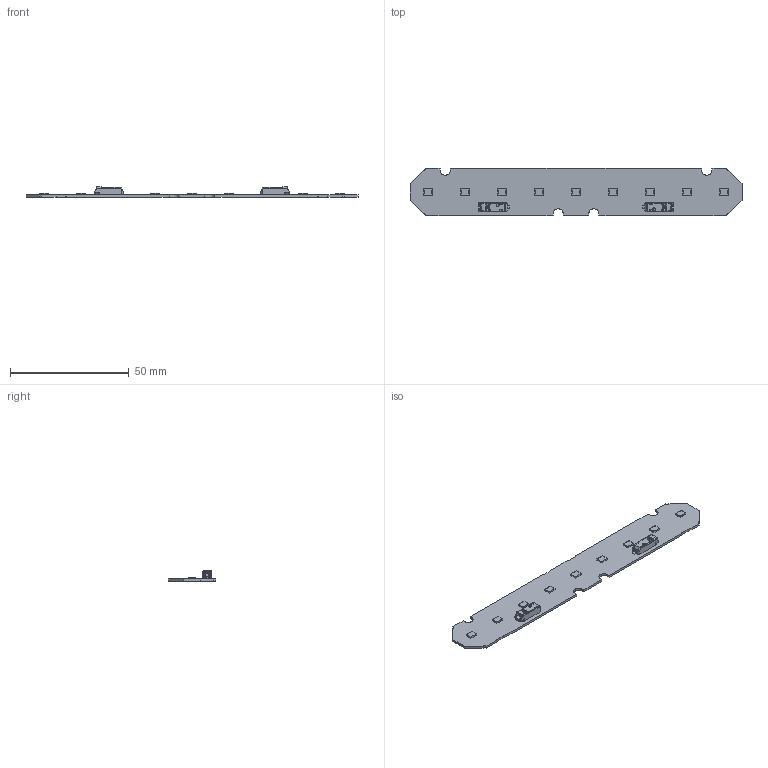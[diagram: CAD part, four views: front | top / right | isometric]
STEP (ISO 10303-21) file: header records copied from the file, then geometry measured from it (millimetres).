
FILE_DESCRIPTION(/* description */ ('Unknown'),/* implementation_level */ '2;1');
FILE_NAME(/* name */ 'LinLED 550lm per 1ft 2C 140x20',/* time_stamp */ '2023-05-12T09:23:57+02:00',/* author */ ('Unknown'),/* organization */ ('Unknown'),/* preprocessor_version */ 'ST-DEVELOPER v18.102',/* originating_system */ 'Solid Edge',/* authorisation */ 'Unknown');
FILE_SCHEMA (('AUTOMOTIVE_DESIGN {1 0 10303 214 3 1 1}'));
Length unit declared in the file: millimetre
Products named in the file (1): LinLED 550lm per 1ft 2C 140x20
Bounding box: 139.6 x 20 x 4.45 mm (x, y, z)
Volume: 2955.4 mm3; surface area: 6125.1 mm2
Topology: 1 solids, 1 shells, 662 faces, 1720 edges, 1078 vertices
Faces by surface type: plane 360, cylinder 146, torus 64, cone 50, bspline 26, sphere 16
Entity records: 25692 total; most frequent: CARTESIAN_POINT 5687, ORIENTED_EDGE 3392, DIRECTION 2826, EDGE_CURVE 1696, VERTEX_POINT 1072, LINE 1056, VECTOR 1056, AXIS2_PLACEMENT_3D 885
